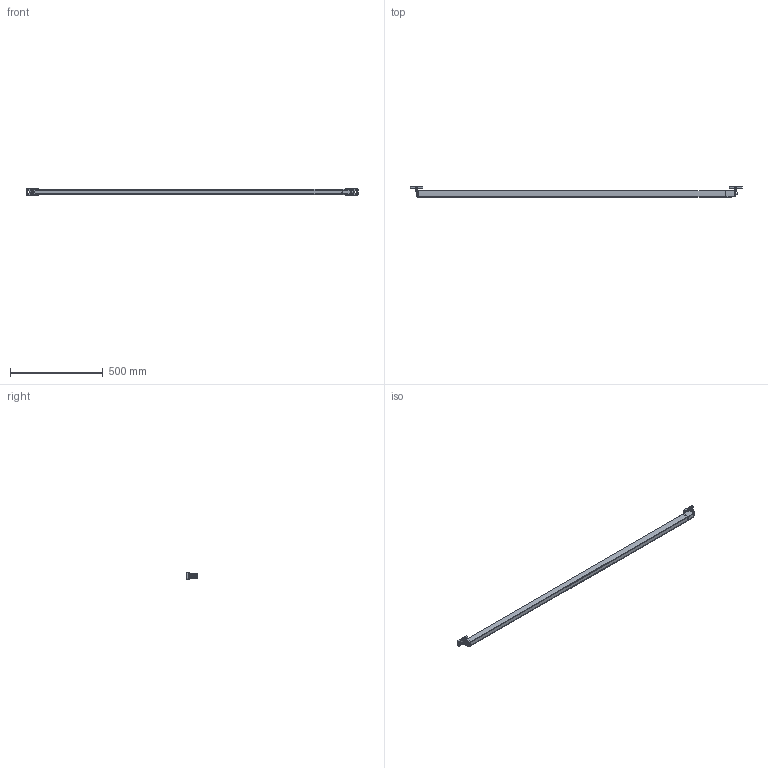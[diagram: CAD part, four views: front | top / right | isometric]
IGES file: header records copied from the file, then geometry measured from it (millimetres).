
Global section: file name: No Iges File Name specified; native system: Autodesk Inventor 2009; preprocessor: AutoDesk Inventor Iges Exporter R2009; author: seisen; date: 20121207.095502; units: millimetre
Bounding box: 1789.91 x 55.35 x 34 mm (x, y, z)
Volume: 1577490.1 mm3; surface area: 295505.7 mm2
Topology: 21 solids, 21 shells, 867 faces, 2297 edges, 1454 vertices
Faces by surface type: plane 325, cylinder 160, revolution 156, bspline 134, torus 44, cone 32, sphere 16
